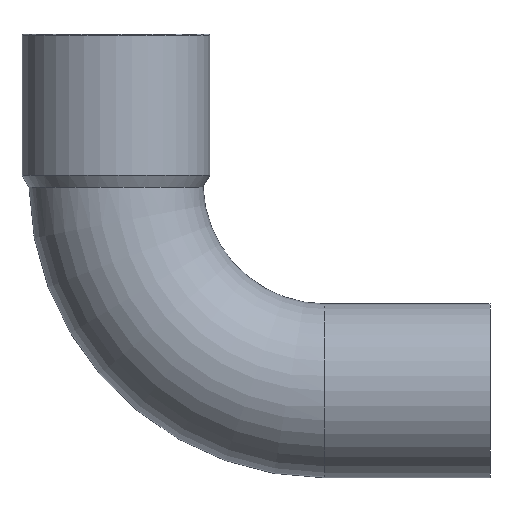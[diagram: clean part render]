
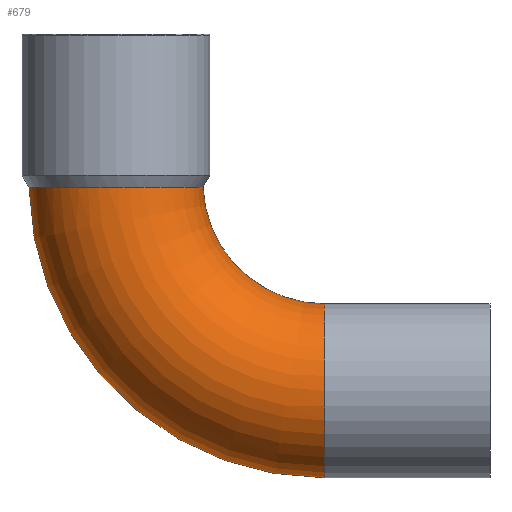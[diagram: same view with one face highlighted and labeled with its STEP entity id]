
A CAD part, front view. The second image highlights one B-rep face of the part: STEP entity #679.
In plain terms, the highlighted toroidal (fillet/blend) face has major radius 24 mm and minor radius 10 mm.
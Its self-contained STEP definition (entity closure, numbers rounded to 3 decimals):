
#49=CARTESIAN_POINT('',(-11.959,0.,-0.609));
#50=VERTEX_POINT('',#49);
#51=CARTESIAN_POINT('',(22.035,0.,-34.0));
#52=VERTEX_POINT('',#51);
#53=CARTESIAN_POINT('',(22.035,0.,0.0));
#54=DIRECTION('',(0.0,-1.0,0.0));
#55=DIRECTION('',(0.0,0.0,-1.0));
#56=AXIS2_PLACEMENT_3D('',#53,#54,#55);
#57=CIRCLE('',#56,34.0);
#58=EDGE_CURVE('',#50,#52,#57,.T.);
#60=CARTESIAN_POINT('',(8.047,0.,-0.579));
#61=VERTEX_POINT('',#60);
#85=CARTESIAN_POINT('',(22.035,0.,-14.0));
#86=VERTEX_POINT('',#85);
#87=CARTESIAN_POINT('',(22.035,0.,0.0));
#88=DIRECTION('',(0.0,1.0,0.0));
#89=DIRECTION('',(0.0,0.0,-1.0));
#90=AXIS2_PLACEMENT_3D('',#87,#88,#89);
#91=CIRCLE('',#90,14.0);
#92=EDGE_CURVE('',#86,#61,#91,.T.);
#210=CARTESIAN_POINT('',(8.047,0.,-0.579));
#211=CARTESIAN_POINT('',(8.047,-0.087,-0.579));
#212=CARTESIAN_POINT('',(8.046,-0.174,-0.579));
#213=CARTESIAN_POINT('',(8.01,-1.563,-0.579));
#214=CARTESIAN_POINT('',(7.722,-2.845,-0.58));
#215=CARTESIAN_POINT('',(6.67,-5.228,-0.584));
#216=CARTESIAN_POINT('',(5.916,-6.305,-0.586));
#217=CARTESIAN_POINT('',(4.037,-8.111,-0.59));
#218=CARTESIAN_POINT('',(2.931,-8.822,-0.592));
#219=CARTESIAN_POINT('',(0.507,-9.779,-0.597));
#220=CARTESIAN_POINT('',(-0.787,-10.016,-0.598));
#221=CARTESIAN_POINT('',(-3.392,-9.982,-0.602));
#222=CARTESIAN_POINT('',(-4.679,-9.711,-0.603));
#223=CARTESIAN_POINT('',(-7.075,-8.69,-0.606));
#224=CARTESIAN_POINT('',(-8.162,-7.951,-0.607));
#225=CARTESIAN_POINT('',(-9.992,-6.097,-0.608));
#226=CARTESIAN_POINT('',(-10.717,-5.001,-0.609));
#227=CARTESIAN_POINT('',(-11.705,-2.591,-0.609));
#228=CARTESIAN_POINT('',(-11.959,-1.302,-0.609));
#229=CARTESIAN_POINT('',(-11.959,0.,-0.609));
#230=B_SPLINE_CURVE_WITH_KNOTS('',3,(#210,#211,#212,#213,#214,#215,#216,#217,#218,#219,#220,#221,#222,#223,#224,#225,#226,#227,#228,#229),.UNSPECIFIED.,.F.,.U.,(4,2,2,2,2,2,2,2,2,4),(-3.152,-3.126,-2.735,-2.344,-1.954,-1.563,-1.172,-0.781,-0.391,0.0),.UNSPECIFIED.);
#231=EDGE_CURVE('',#61,#50,#230,.T.);
#535=CARTESIAN_POINT('',(22.035,0.,-24.0));
#536=DIRECTION('',(-1.0,0.0,0.0));
#537=DIRECTION('',(0.0,0.0,-1.0));
#538=AXIS2_PLACEMENT_3D('',#535,#536,#537);
#539=CIRCLE('',#538,10.0);
#540=EDGE_CURVE('',#52,#86,#539,.T.);
#668=CARTESIAN_POINT('',(22.035,0.,0.0));
#669=DIRECTION('',(0.0,-1.0,0.0));
#670=DIRECTION('',(0.0,0.0,-1.0));
#671=AXIS2_PLACEMENT_3D('',#668,#669,#670);
#672=TOROIDAL_SURFACE('',#671,24.0,10.0);
#673=ORIENTED_EDGE('',*,*,#58,.T.);
#674=ORIENTED_EDGE('',*,*,#540,.T.);
#675=ORIENTED_EDGE('',*,*,#92,.T.);
#676=ORIENTED_EDGE('',*,*,#231,.T.);
#677=EDGE_LOOP('',(#673,#674,#675,#676));
#678=FACE_OUTER_BOUND('',#677,.T.);
#679=ADVANCED_FACE('',(#678),#672,.T.);
